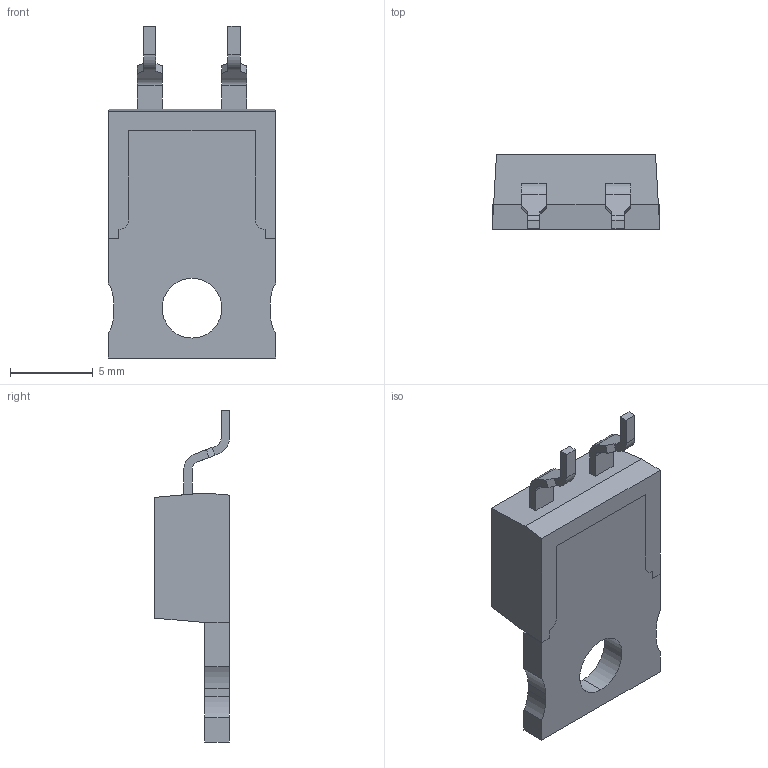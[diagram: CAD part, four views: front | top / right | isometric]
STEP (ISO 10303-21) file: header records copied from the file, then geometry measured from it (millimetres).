
FILE_DESCRIPTION (( 'STEP AP203' ), '1' );
FILE_NAME ('To220s.STEP', '2024-03-26T02:18:36', ( '' ), ( '' ), 'SwSTEP 2.0', 'SolidWorks 2022', '' );
FILE_SCHEMA (( 'CONFIG_CONTROL_DESIGN' ));
Length unit declared in the file: millimetre
Products named in the file (5): To220s; 陶瓷基板; 弯脚引线; 塑封; 散热片
Assembly tree (4 placements, depth 2):
  To220s
    陶瓷基板
    塑封
    弯脚引线
    散热片
Bounding box: 10.1 x 4.51 x 20 mm (x, y, z)
Volume: 436.5 mm3; surface area: 994.2 mm2
Topology: 9 solids, 9 shells, 432 faces, 1169 edges, 777 vertices
Faces by surface type: plane 313, bspline 61, cylinder 58
Entity records: 17394 total; most frequent: CARTESIAN_POINT 6286, ORIENTED_EDGE 2338, DIRECTION 1921, EDGE_CURVE 1169, VECTOR 929, LINE 929, VERTEX_POINT 777, AXIS2_PLACEMENT_3D 496
